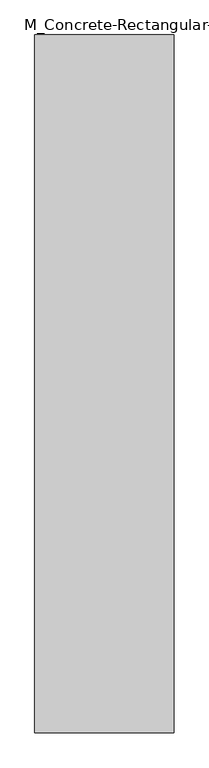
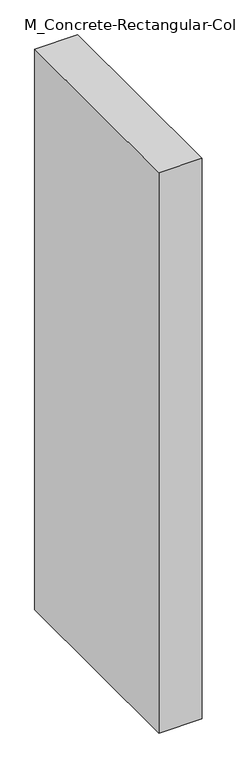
"""IFC4 building model written with IfcOpenShell, lengths in millimetres: column geometry, M_Concrete-Rectangular-Column : 200 x 1000mm."""

from ifc_helpers import new_model, si_unit, frame, origin, place, context, project, spatial, polyline, outline, extrude, source, transform, mapped, element, save


def m_concrete_rectangular_column_200_x_1000mm_93aa1caa(model_context):
    return source(origin(), model_context, "Body", "SweptSolid", [
        extrude(outline(polyline([(100.0, 500.0), (100.0, -500.0), (-100.0, -500.0), (-100.0, 500.0), (100.0, 500.0)])), frame((0.0, 0.0, 3000.0), z_axis=(0.0, 0.0, 1.0), x_axis=(1.0, 0.0, 0.0)), (0.0, 0.0, 1.0), 2750.0),
    ])


if __name__ == "__main__":
    model = new_model("IFC4")
    model_context = context("Model", 3, world=origin())
    ifc_project = project(units=[si_unit("LENGTHUNIT", "METRE", prefix="MILLI")], contexts=[model_context])
    site = spatial("IfcSite", under=ifc_project)
    building = spatial("IfcBuilding", under=site)
    placement = place(None, origin())
    m_concrete_rectangular_column_200_x_1000mm_shape = m_concrete_rectangular_column_200_x_1000mm_93aa1caa(model_context)
    element("IfcColumn", 1, ObjectType="M_Concrete-Rectangular-Column : 200 x 1000mm", at=placement, inside=building, context=model_context, shape_type="MappedRepresentation", body=[
        mapped(m_concrete_rectangular_column_200_x_1000mm_shape, transform((0.0, 0.0, 0.0), x_axis=(1.0, 0.0, 0.0), y_axis=(0.0, 1.0, 0.0), z_axis=(0.0, 0.0, 1.0))),
    ])
    save(model, "model.ifc")
